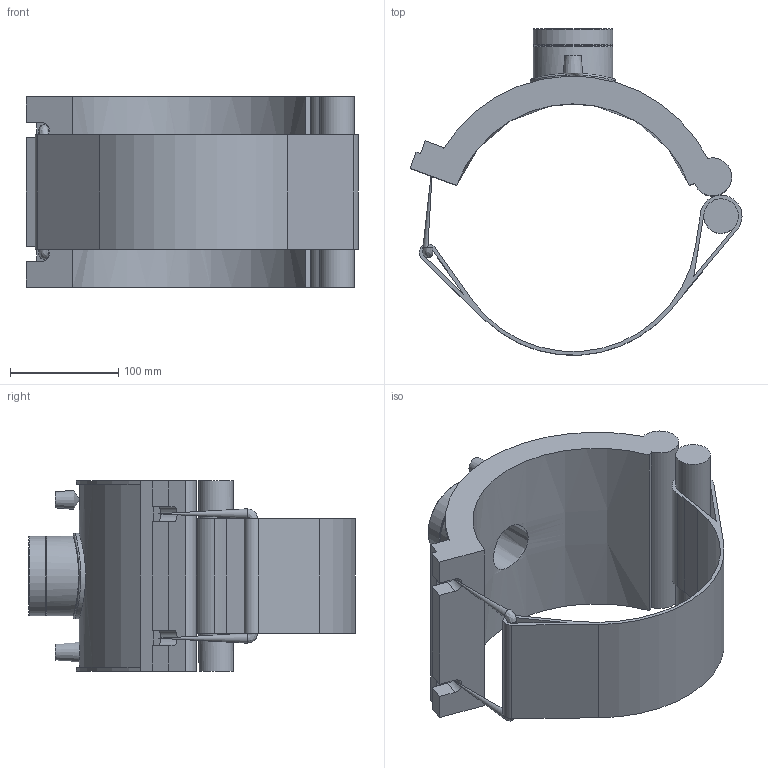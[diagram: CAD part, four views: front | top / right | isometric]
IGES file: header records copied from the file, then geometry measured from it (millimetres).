
Global section: file name: 5938D00308055.ipt; native system: Autodesk Inventor 2019; preprocessor: unknown; author: KIM; date: 20210830.101140; units: inch
Bounding box: 306.75 x 301.79 x 176.02 mm (x, y, z)
Volume: 1907878.3 mm3; surface area: 316105.7 mm2
Topology: 2 solids, 3 shells, 78 faces, 192 edges, 126 vertices
Faces by surface type: plane 42, cylinder 19, revolution 11, cone 5, bspline 1
Full cylindrical faces by diameter (mm): 4 x2, 9.156 x2, 31.87 x1, 72.653 x1, 73.653 x2, 79.318 x1
